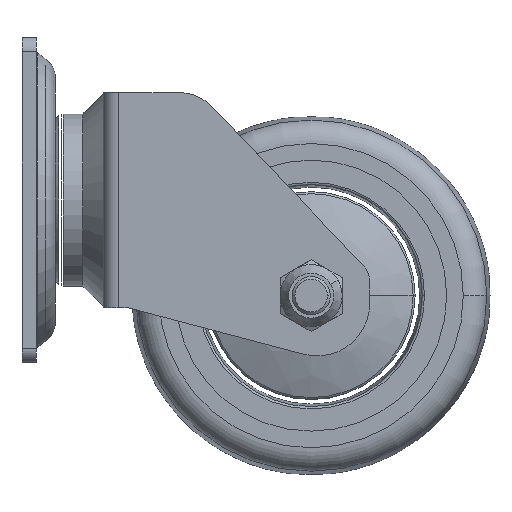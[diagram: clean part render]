
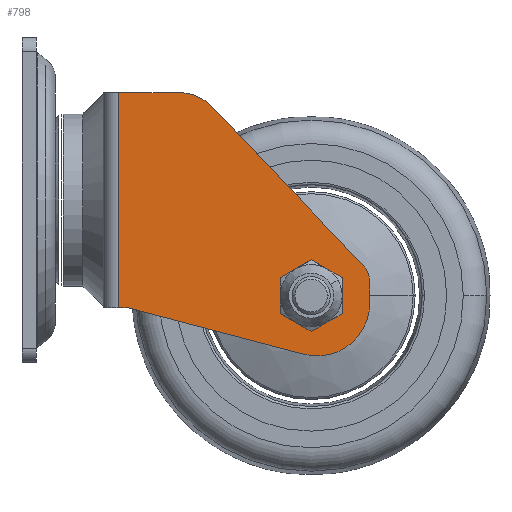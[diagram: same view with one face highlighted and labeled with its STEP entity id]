
A CAD part, left-side view. The second image highlights one B-rep face of the part: STEP entity #798.
In plain terms, the highlighted planar face has unit normal (-1, 0, 0).
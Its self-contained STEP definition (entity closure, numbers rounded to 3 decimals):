
#271=DIRECTION('',(0.,0.,-1.));
#272=VECTOR('',#271,45.);
#273=CARTESIAN_POINT('',(-33.,-16.2,22.5));
#274=LINE('',#273,#272);
#275=DIRECTION('',(0.,-1.,0.));
#276=VECTOR('',#275,12.509);
#277=CARTESIAN_POINT('',(-33.,-16.2,22.5));
#278=LINE('',#277,#276);
#279=CARTESIAN_POINT('',(-33.,-28.709,12.5));
#280=DIRECTION('',(-1.,0.,0.));
#281=DIRECTION('',(0.,-0.725,0.689));
#282=AXIS2_PLACEMENT_3D('',#279,#280,#281);
#284=DIRECTION('',(0.,-0.689,-0.725));
#285=VECTOR('',#284,45.599);
#286=CARTESIAN_POINT('',(-33.,-35.957,19.39));
#287=LINE('',#286,#285);
#288=CARTESIAN_POINT('',(-33.,-63.75,-17.104));
#289=DIRECTION('',(-1.,0.,0.));
#290=DIRECTION('',(0.,-1.,0.));
#291=AXIS2_PLACEMENT_3D('',#288,#289,#290);
#293=DIRECTION('',(0.,0.,-1.));
#294=VECTOR('',#293,4.519);
#295=CARTESIAN_POINT('',(-33.,-68.75,-17.104));
#296=LINE('',#295,#294);
#297=CARTESIAN_POINT('',(-33.,-57.75,-21.623));
#298=DIRECTION('',(-1.,0.,0.));
#299=DIRECTION('',(0.,0.255,-0.967));
#300=AXIS2_PLACEMENT_3D('',#297,#298,#299);
#302=DIRECTION('',(0.,0.967,0.255));
#303=VECTOR('',#302,38.208);
#304=CARTESIAN_POINT('',(-33.,-54.941,-32.258));
#305=LINE('',#304,#303);
#306=DIRECTION('',(0.,1.,0.));
#307=VECTOR('',#306,1.8);
#308=CARTESIAN_POINT('',(-33.,-18.,-22.5));
#309=LINE('',#308,#307);
#310=CARTESIAN_POINT('',(-33.,-56.5,-20.));
#311=DIRECTION('',(-1.,0.,0.));
#312=DIRECTION('',(0.,0.,-1.));
#313=AXIS2_PLACEMENT_3D('',#310,#311,#312);
#315=CARTESIAN_POINT('',(-33.,-56.5,-20.));
#316=DIRECTION('',(-1.,0.,0.));
#317=DIRECTION('',(0.,0.,1.));
#318=AXIS2_PLACEMENT_3D('',#315,#316,#317);
#655=CARTESIAN_POINT('',(-33.,-16.2,22.5));
#656=CARTESIAN_POINT('',(-33.,-28.709,22.5));
#657=VERTEX_POINT('',#655);
#658=VERTEX_POINT('',#656);
#659=CARTESIAN_POINT('',(-33.,-35.957,19.39));
#660=VERTEX_POINT('',#659);
#661=CARTESIAN_POINT('',(-33.,-67.374,-13.659));
#662=VERTEX_POINT('',#661);
#663=CARTESIAN_POINT('',(-33.,-18.,-22.5));
#664=CARTESIAN_POINT('',(-33.,-16.2,-22.5));
#665=VERTEX_POINT('',#663);
#666=VERTEX_POINT('',#664);
#667=CARTESIAN_POINT('',(-33.,-56.5,-24.1));
#668=CARTESIAN_POINT('',(-33.,-56.5,-15.9));
#669=VERTEX_POINT('',#667);
#670=VERTEX_POINT('',#668);
#743=CARTESIAN_POINT('',(-33.,-68.75,-17.104));
#744=VERTEX_POINT('',#743);
#745=CARTESIAN_POINT('',(-33.,-68.75,-21.623));
#746=VERTEX_POINT('',#745);
#747=CARTESIAN_POINT('',(-33.,-54.941,-32.258));
#748=VERTEX_POINT('',#747);
#767=CARTESIAN_POINT('',(-33.,-13.,0.));
#768=DIRECTION('',(1.,0.,0.));
#769=DIRECTION('',(0.,0.,-1.));
#770=AXIS2_PLACEMENT_3D('',#767,#768,#769);
#771=PLANE('',#770);
#773=ORIENTED_EDGE('',*,*,#772,.F.);
#775=ORIENTED_EDGE('',*,*,#774,.T.);
#777=ORIENTED_EDGE('',*,*,#776,.F.);
#779=ORIENTED_EDGE('',*,*,#778,.T.);
#781=ORIENTED_EDGE('',*,*,#780,.F.);
#783=ORIENTED_EDGE('',*,*,#782,.T.);
#785=ORIENTED_EDGE('',*,*,#784,.F.);
#787=ORIENTED_EDGE('',*,*,#786,.T.);
#789=ORIENTED_EDGE('',*,*,#788,.T.);
#790=EDGE_LOOP('',(#773,#775,#777,#779,#781,#783,#785,#787,#789));
#791=FACE_OUTER_BOUND('',#790,.F.);
#793=ORIENTED_EDGE('',*,*,#792,.T.);
#795=ORIENTED_EDGE('',*,*,#794,.T.);
#796=EDGE_LOOP('',(#793,#795));
#797=FACE_BOUND('',#796,.F.);
#283=CIRCLE('',#282,10.);
#292=CIRCLE('',#291,5.);
#301=CIRCLE('',#300,11.);
#314=CIRCLE('',#313,4.1);
#319=CIRCLE('',#318,4.1);
#772=EDGE_CURVE('',#657,#666,#274,.T.);
#774=EDGE_CURVE('',#657,#658,#278,.T.);
#776=EDGE_CURVE('',#660,#658,#283,.T.);
#778=EDGE_CURVE('',#660,#662,#287,.T.);
#780=EDGE_CURVE('',#744,#662,#292,.T.);
#782=EDGE_CURVE('',#744,#746,#296,.T.);
#784=EDGE_CURVE('',#748,#746,#301,.T.);
#786=EDGE_CURVE('',#748,#665,#305,.T.);
#788=EDGE_CURVE('',#665,#666,#309,.T.);
#792=EDGE_CURVE('',#669,#670,#314,.T.);
#794=EDGE_CURVE('',#670,#669,#319,.T.);
#798=ADVANCED_FACE('',(#791,#797),#771,.F.);
